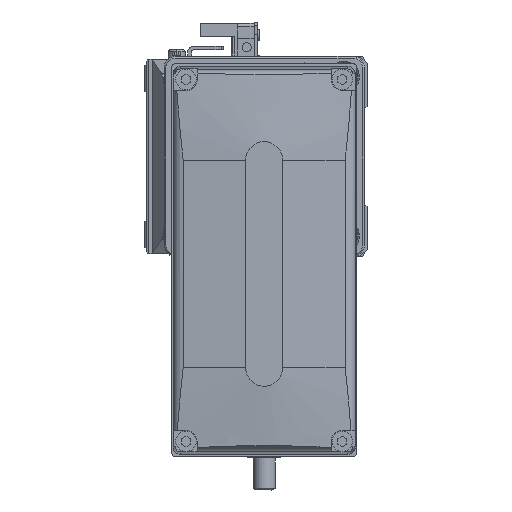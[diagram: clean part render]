
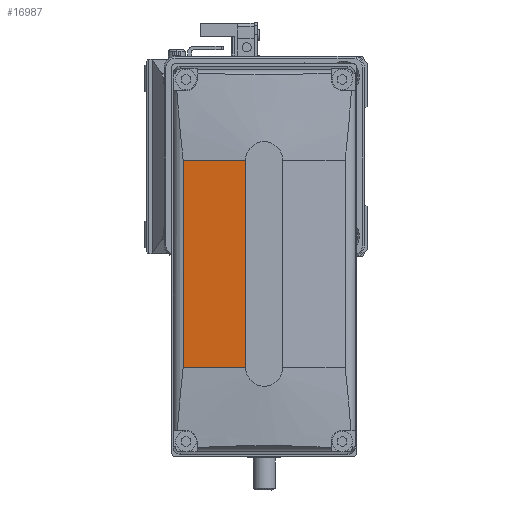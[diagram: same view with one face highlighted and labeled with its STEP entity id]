
A CAD part, left-side view. The second image highlights one B-rep face of the part: STEP entity #16987.
In plain terms, the highlighted planar face has unit normal (-0.996, 0.087, 0) as drawn and (-0.996, 0, -0.087) by its records, which use the part's own axes.
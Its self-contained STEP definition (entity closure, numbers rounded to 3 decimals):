
#562 = ORIENTED_EDGE ( 'NONE', *, *, #3924, .F. ) ;
#861 = CARTESIAN_POINT ( 'NONE',  ( -48.525, 128., -21.861 ) ) ;
#1162 = DIRECTION ( 'NONE',  ( -0.996, 0., -0.087 ) ) ;
#1391 = DIRECTION ( 'NONE',  ( 0., 1., 0. ) ) ;
#3924 = EDGE_CURVE ( 'NONE', #23352, #20900, #17221, .T. ) ;
#4117 = PLANE ( 'NONE',  #25477 ) ;
#4238 = DIRECTION ( 'NONE',  ( -0.087, 0., 0.996 ) ) ;
#4885 = VECTOR ( 'NONE', #30732, 1000. ) ;
#5016 = VECTOR ( 'NONE', #15360, 1000. ) ;
#6554 = CARTESIAN_POINT ( 'NONE',  ( 43606.406, 28., -499000. ) ) ;
#7044 = CARTESIAN_POINT ( 'NONE',  ( -50., 128., -5. ) ) ;
#7755 = LINE ( 'NONE', #26690, #5016 ) ;
#9083 = VECTOR ( 'NONE', #32051, 1000. ) ;
#9102 = ORIENTED_EDGE ( 'NONE', *, *, #18219, .F. ) ;
#10869 = CARTESIAN_POINT ( 'NONE',  ( -50., 128., -5. ) ) ;
#11177 = EDGE_CURVE ( 'NONE', #18291, #23352, #7755, .T. ) ;
#11284 = LINE ( 'NONE', #10869, #4885 ) ;
#11715 = ORIENTED_EDGE ( 'NONE', *, *, #29744, .T. ) ;
#13878 = CARTESIAN_POINT ( 'NONE',  ( -48.525, 28., -21.861 ) ) ;
#15360 = DIRECTION ( 'NONE',  ( 0.087, 0., -0.996 ) ) ;
#15594 = FACE_OUTER_BOUND ( 'NONE', #26292, .T. ) ;
#16399 = CARTESIAN_POINT ( 'NONE',  ( -48.525, -28., -21.861 ) ) ;
#16987 = ADVANCED_FACE ( 'NONE', ( #15594 ), #4117, .T. ) ;
#17221 = LINE ( 'NONE', #861, #28935 ) ;
#18219 = EDGE_CURVE ( 'NONE', #20900, #36216, #22686, .T. ) ;
#18291 = VERTEX_POINT ( 'NONE', #27440 ) ;
#20900 = VERTEX_POINT ( 'NONE', #13878 ) ;
#22686 = LINE ( 'NONE', #6554, #9083 ) ;
#23352 = VERTEX_POINT ( 'NONE', #16399 ) ;
#25477 = AXIS2_PLACEMENT_3D ( 'NONE', #7044, #1162, #4238 ) ;
#26292 = EDGE_LOOP ( 'NONE', ( #9102, #562, #30364, #11715 ) ) ;
#26690 = CARTESIAN_POINT ( 'NONE',  ( 43606.406, -28., -499000. ) ) ;
#27440 = CARTESIAN_POINT ( 'NONE',  ( -50., -28., -5. ) ) ;
#28935 = VECTOR ( 'NONE', #1391, 1000. ) ;
#29744 = EDGE_CURVE ( 'NONE', #18291, #36216, #11284, .T. ) ;
#30364 = ORIENTED_EDGE ( 'NONE', *, *, #11177, .F. ) ;
#30732 = DIRECTION ( 'NONE',  ( 0., 1., 0. ) ) ;
#32051 = DIRECTION ( 'NONE',  ( -0.087, 0., 0.996 ) ) ;
#34342 = CARTESIAN_POINT ( 'NONE',  ( -50., 28., -5. ) ) ;
#36216 = VERTEX_POINT ( 'NONE', #34342 ) ;
